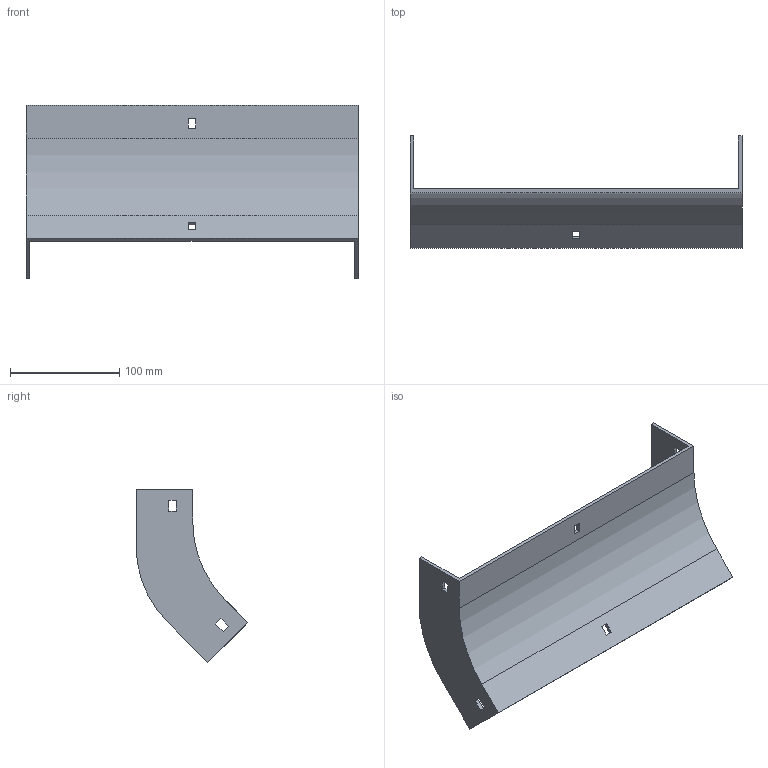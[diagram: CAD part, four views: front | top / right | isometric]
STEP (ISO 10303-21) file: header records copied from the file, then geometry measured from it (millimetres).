
FILE_DESCRIPTION (( 'STEP AP214' ), '1' );
FILE_NAME ('34F1B300.step', '2025-02-21T12:50:58', ( '' ), ( '' ), 'SwSTEP 2.0', 'SolidWorks 2023', '' );
FILE_SCHEMA (( 'AUTOMOTIVE_DESIGN' ));
Length unit declared in the file: millimetre
Products named in the file (1): 34F1B300
Bounding box: 304 x 102.5 x 158.69 mm (x, y, z)
Volume: 203886.4 mm3; surface area: 121268.2 mm2
Topology: 1 solids, 1 shells, 42 faces, 120 edges, 80 vertices
Faces by surface type: plane 38, cylinder 4
Entity records: 1399 total; most frequent: CARTESIAN_POINT 243, ORIENTED_EDGE 240, DIRECTION 214, EDGE_CURVE 120, LINE 112, VECTOR 112, VERTEX_POINT 80, EDGE_LOOP 54
